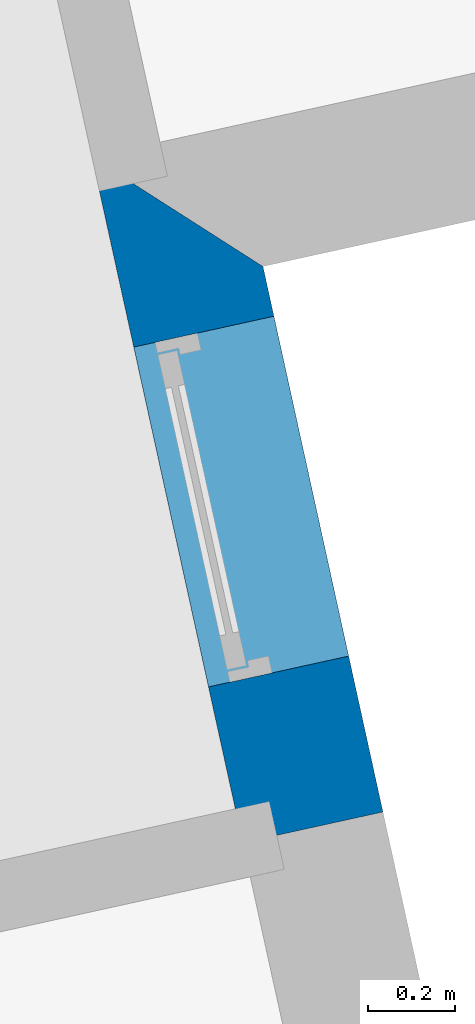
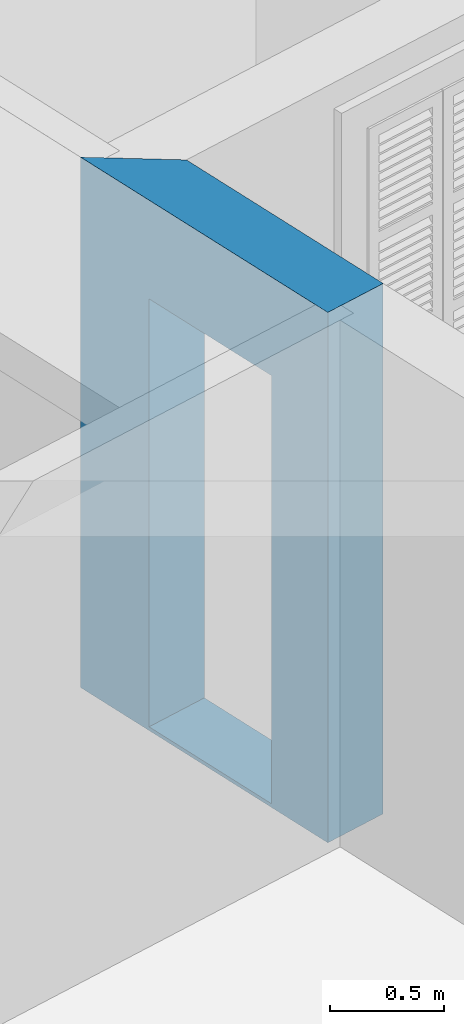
# One storey, part 8 of 14: 1 wall, 1 opening.
"""IFC4 building model written with IfcOpenShell, lengths in metres."""

from ifc_helpers import new_model, si_unit, frame, origin_with_axes, place, context, subcontext, project, spatial, polyline, outline, extrude, material, layer, layer_set, layer_usage, type_object, element, save


model = new_model("IFC4")

# Units and contexts
model_context = context("Model", 3, world=origin_with_axes())
body_context = subcontext(model_context, "Body", "Model", "MODEL_VIEW")
ifc_project = project(units=[si_unit("PLANEANGLEUNIT", "RADIAN"), si_unit("MASSUNIT", "GRAM", prefix="KILO"), si_unit("FORCEUNIT", "NEWTON", prefix="KILO"), si_unit("LENGTHUNIT", "METRE"), si_unit("AREAUNIT", "SQUARE_METRE"), si_unit("VOLUMEUNIT", "CUBIC_METRE")], contexts=[model_context, model_context])

# Site, building, storey
site_placement = place(None, origin_with_axes())
site = spatial("IfcSite", under=ifc_project, at=site_placement, Name="Site plot-2", CompositionType="ELEMENT")
building_placement = place(None, origin_with_axes())
building = spatial("IfcBuilding", under=site, at=building_placement, Name="Building plot-2", CompositionType="ELEMENT")
storey_placement = place(None, origin_with_axes())
storey = spatial("IfcBuildingStorey", under=building, at=storey_placement, Name="plot-2 0", CompositionType="ELEMENT", Elevation=0.0)

# Wall, opening
ifc_material = material(Name="Masonry")
ifc_layer = layer(ifc_material, 0.33, ventilated=False)
ifc_layer_set = layer_set([ifc_layer], Name="exterior_0.08_0.25")
ifc_layer_usage = layer_usage(ifc_layer_set, "AXIS2", "POSITIVE", -0.25)
wall_type = type_object("IfcWallType", Name="exterior_0.08_0.25", PredefinedType="SOLIDWALL", material=ifc_layer_set)
wall_placement = place(storey_placement, frame((12.445878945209, 11.0804082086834, 0.0), z_axis=(0.0, 0.0, 1.0), x_axis=(-0.214808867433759, 0.976656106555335, 0.0)))
wall = element("IfcWall", 1, at=wall_placement, inside=storey, type_object=wall_type, material=ifc_layer_usage, Name="exterior", context=body_context, shape_type="SweptSolid", body=[
    extrude(outline(polyline([(2.98917807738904e-15, 0.0800000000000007), (-6.86807466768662e-15, -0.25), (1.28414934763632, -0.249999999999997), (1.61414934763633, 0.0800000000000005), (2.98917807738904e-15, 0.0800000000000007)])), origin_with_axes(), (0.0, 0.0, 1.0), 2.85),
])
opening_placement = place(wall_placement, frame((0.367074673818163, 0.0, 0.02)))
element("IfcOpeningElement", 2, at=opening_placement, cuts=wall, Name="My Opening", ObjectType="Opening", context=body_context, shape_type="SweptSolid", body=[
    extrude(outline(polyline([(0.0, -0.27), (0.799999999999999, -0.270000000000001), (0.8, 1.1), (1.27675647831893e-15, 1.1), (0.0, -0.27)])), origin_with_axes(), (0.0, 0.0, 1.0), 2.3),
])

save(model, "model.ifc")
